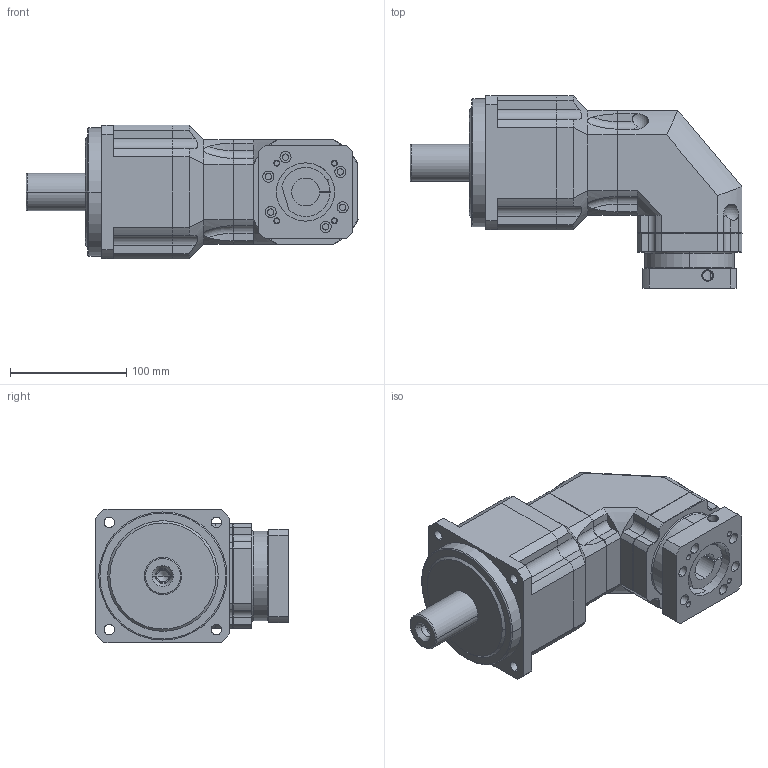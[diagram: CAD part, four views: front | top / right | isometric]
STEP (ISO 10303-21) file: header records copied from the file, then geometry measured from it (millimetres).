
FILE_DESCRIPTION((''),'2;1');
FILE_NAME('ABR1152-P0403300208_ASM','2021-10-20T',('Administrator'),(''),'PRO/ENGINEER BY PARAMETRIC TECHNOLOGY CORPORATION, 2015240','PRO/ENGINEER BY PARAMETRIC TECHNOLOGY CORPORATION, 2015240','');
FILE_SCHEMA(('CONFIG_CONTROL_DESIGN'));
Length unit declared in the file: millimetre
Products named in the file (8): P1301300001_D; P1051300001_D; AB1152-1; AB115; AB-INPUTSHAFT-3; ABR1152_ASM; P0403300208-0012; ABR1152-P0403300208_ASM
Assembly tree (7 placements, depth 3):
  ABR1152-P0403300208_ASM
    ABR1152_ASM
      P1301300001_D
      P1051300001_D
      AB1152-1
      AB115
      AB-INPUTSHAFT-3
    P0403300208-0012
Bounding box: 285 x 165 x 115 mm (x, y, z)
Volume: 2322640.9 mm3; surface area: 206490 mm2
Topology: 6 solids, 13 shells, 430 faces, 1050 edges, 656 vertices
Faces by surface type: cylinder 173, plane 168, cone 54, torus 24, bspline 7, sphere 4
Entity records: 13629 total; most frequent: CARTESIAN_POINT 3160, DIRECTION 2271, ORIENTED_EDGE 2061, EDGE_CURVE 1045, AXIS2_PLACEMENT_3D 894, VERTEX_POINT 656, EDGE_LOOP 486, VECTOR 483
